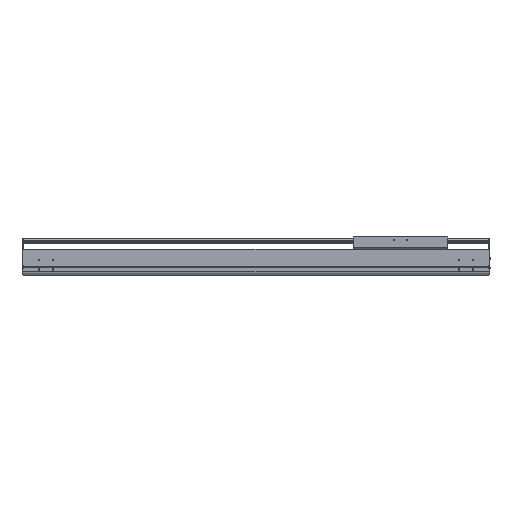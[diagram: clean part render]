
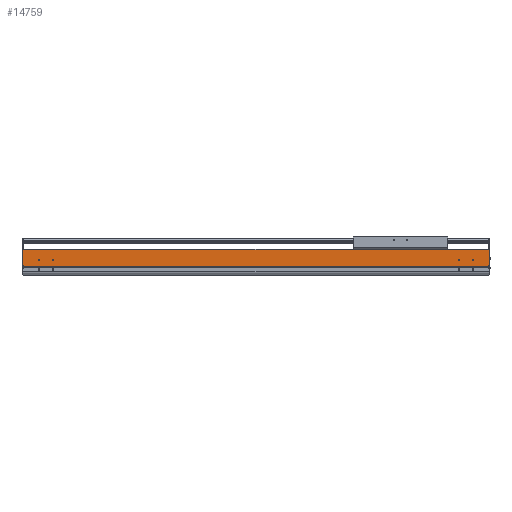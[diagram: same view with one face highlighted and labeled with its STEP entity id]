
A CAD part, top view. The second image highlights one B-rep face of the part: STEP entity #14759.
In plain terms, the highlighted planar face has unit normal (0, 0, 1).
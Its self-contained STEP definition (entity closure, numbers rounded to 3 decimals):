
#1759=DIRECTION('',(0.,-1.,0.));
#1760=VECTOR('',#1759,2.55);
#1761=CARTESIAN_POINT('',(0.,34.65,107.));
#1762=LINE('',#1761,#1760);
#2242=DIRECTION('',(1.,0.,0.));
#2243=VECTOR('',#2242,2.);
#2244=CARTESIAN_POINT('',(-1721.,34.65,107.));
#2245=LINE('',#2244,#2243);
#2246=CARTESIAN_POINT('',(-59.5,54.,107.));
#2247=DIRECTION('',(0.,0.,-1.));
#2248=DIRECTION('',(1.,0.,0.));
#2249=AXIS2_PLACEMENT_3D('',#2246,#2247,#2248);
#2251=CARTESIAN_POINT('',(-59.5,54.,107.));
#2252=DIRECTION('',(0.,0.,-1.));
#2253=DIRECTION('',(-1.,0.,0.));
#2254=AXIS2_PLACEMENT_3D('',#2251,#2252,#2253);
#2256=CARTESIAN_POINT('',(-109.5,54.,107.));
#2257=DIRECTION('',(0.,0.,-1.));
#2258=DIRECTION('',(1.,0.,0.));
#2259=AXIS2_PLACEMENT_3D('',#2256,#2257,#2258);
#2261=CARTESIAN_POINT('',(-109.5,54.,107.));
#2262=DIRECTION('',(0.,0.,-1.));
#2263=DIRECTION('',(-1.,0.,0.));
#2264=AXIS2_PLACEMENT_3D('',#2261,#2262,#2263);
#2266=CARTESIAN_POINT('',(-1659.5,54.,107.));
#2267=DIRECTION('',(0.,0.,-1.));
#2268=DIRECTION('',(1.,0.,0.));
#2269=AXIS2_PLACEMENT_3D('',#2266,#2267,#2268);
#2271=CARTESIAN_POINT('',(-1659.5,54.,107.));
#2272=DIRECTION('',(0.,0.,-1.));
#2273=DIRECTION('',(-1.,0.,0.));
#2274=AXIS2_PLACEMENT_3D('',#2271,#2272,#2273);
#2276=CARTESIAN_POINT('',(-1609.5,54.,107.));
#2277=DIRECTION('',(0.,0.,-1.));
#2278=DIRECTION('',(1.,0.,0.));
#2279=AXIS2_PLACEMENT_3D('',#2276,#2277,#2278);
#2281=CARTESIAN_POINT('',(-1609.5,54.,107.));
#2282=DIRECTION('',(0.,0.,-1.));
#2283=DIRECTION('',(-1.,0.,0.));
#2284=AXIS2_PLACEMENT_3D('',#2281,#2282,#2283);
#2286=DIRECTION('',(0.,-1.,0.));
#2287=VECTOR('',#2286,2.55);
#2288=CARTESIAN_POINT('',(-1719.,34.65,107.));
#2289=LINE('',#2288,#2287);
#2290=DIRECTION('',(0.,-1.,0.));
#2291=VECTOR('',#2290,58.85);
#2292=CARTESIAN_POINT('',(-1721.,93.5,107.));
#2293=LINE('',#2292,#2291);
#2294=DIRECTION('',(0.,1.,0.));
#2295=VECTOR('',#2294,58.85);
#2296=CARTESIAN_POINT('',(2.,34.65,107.));
#2297=LINE('',#2296,#2295);
#2298=DIRECTION('',(1.,0.,0.));
#2299=VECTOR('',#2298,1719.);
#2300=CARTESIAN_POINT('',(-1719.,32.1,107.));
#2301=LINE('',#2300,#2299);
#2406=DIRECTION('',(-1.,0.,0.));
#2407=VECTOR('',#2406,1723.);
#2408=CARTESIAN_POINT('',(2.,93.5,107.));
#2409=LINE('',#2408,#2407);
#8004=DIRECTION('',(1.,0.,0.));
#8005=VECTOR('',#8004,2.);
#8006=CARTESIAN_POINT('',(0.,34.65,107.));
#8007=LINE('',#8006,#8005);
#9233=CARTESIAN_POINT('',(-1721.,34.65,107.));
#9234=VERTEX_POINT('',#9233);
#9235=CARTESIAN_POINT('',(-1721.,93.5,107.));
#9236=VERTEX_POINT('',#9235);
#9465=CARTESIAN_POINT('',(-1719.,32.1,107.));
#9466=VERTEX_POINT('',#9465);
#9789=CARTESIAN_POINT('',(0.,32.1,107.));
#9790=VERTEX_POINT('',#9789);
#9791=CARTESIAN_POINT('',(-57.,54.,107.));
#9792=CARTESIAN_POINT('',(-62.,54.,107.));
#9793=VERTEX_POINT('',#9791);
#9794=VERTEX_POINT('',#9792);
#9795=CARTESIAN_POINT('',(-107.,54.,107.));
#9796=CARTESIAN_POINT('',(-112.,54.,107.));
#9797=VERTEX_POINT('',#9795);
#9798=VERTEX_POINT('',#9796);
#9799=CARTESIAN_POINT('',(-1657.,54.,107.));
#9800=CARTESIAN_POINT('',(-1662.,54.,107.));
#9801=VERTEX_POINT('',#9799);
#9802=VERTEX_POINT('',#9800);
#9803=CARTESIAN_POINT('',(-1607.,54.,107.));
#9804=CARTESIAN_POINT('',(-1612.,54.,107.));
#9805=VERTEX_POINT('',#9803);
#9806=VERTEX_POINT('',#9804);
#10666=CARTESIAN_POINT('',(2.,34.65,107.));
#10667=VERTEX_POINT('',#10666);
#10668=CARTESIAN_POINT('',(2.,93.5,107.));
#10669=VERTEX_POINT('',#10668);
#11120=CARTESIAN_POINT('',(0.,34.65,107.));
#11121=VERTEX_POINT('',#11120);
#11200=CARTESIAN_POINT('',(-1719.,34.65,107.));
#11201=VERTEX_POINT('',#11200);
#14717=CARTESIAN_POINT('',(-859.5,62.8,107.));
#14718=DIRECTION('',(0.,0.,1.));
#14719=DIRECTION('',(0.,-1.,0.));
#14720=AXIS2_PLACEMENT_3D('',#14717,#14718,#14719);
#14721=PLANE('',#14720);
#14722=ORIENTED_EDGE('',*,*,#12203,.F.);
#14723=ORIENTED_EDGE('',*,*,#14712,.F.);
#14724=ORIENTED_EDGE('',*,*,#12832,.F.);
#14726=ORIENTED_EDGE('',*,*,#14725,.F.);
#14727=ORIENTED_EDGE('',*,*,#11940,.F.);
#14729=ORIENTED_EDGE('',*,*,#14728,.F.);
#14730=ORIENTED_EDGE('',*,*,#14320,.T.);
#14732=ORIENTED_EDGE('',*,*,#14731,.F.);
#14733=EDGE_LOOP('',(#14722,#14723,#14724,#14726,#14727,#14729,#14730,#14732));
#14734=FACE_OUTER_BOUND('',#14733,.F.);
#14736=ORIENTED_EDGE('',*,*,#14735,.F.);
#14738=ORIENTED_EDGE('',*,*,#14737,.F.);
#14739=EDGE_LOOP('',(#14736,#14738));
#14740=FACE_BOUND('',#14739,.F.);
#14742=ORIENTED_EDGE('',*,*,#14741,.F.);
#14744=ORIENTED_EDGE('',*,*,#14743,.F.);
#14745=EDGE_LOOP('',(#14742,#14744));
#14746=FACE_BOUND('',#14745,.F.);
#14748=ORIENTED_EDGE('',*,*,#14747,.F.);
#14750=ORIENTED_EDGE('',*,*,#14749,.F.);
#14751=EDGE_LOOP('',(#14748,#14750));
#14752=FACE_BOUND('',#14751,.F.);
#14754=ORIENTED_EDGE('',*,*,#14753,.F.);
#14756=ORIENTED_EDGE('',*,*,#14755,.F.);
#14757=EDGE_LOOP('',(#14754,#14756));
#14758=FACE_BOUND('',#14757,.F.);
#14759=ADVANCED_FACE('',(#14734,#14740,#14746,#14752,#14758),#14721,.T.);
#2250=CIRCLE('',#2249,2.5);
#2255=CIRCLE('',#2254,2.5);
#2260=CIRCLE('',#2259,2.5);
#2265=CIRCLE('',#2264,2.5);
#2270=CIRCLE('',#2269,2.5);
#2275=CIRCLE('',#2274,2.5);
#2280=CIRCLE('',#2279,2.5);
#2285=CIRCLE('',#2284,2.5);
#11940=EDGE_CURVE('',#10667,#10669,#2297,.T.);
#12203=EDGE_CURVE('',#11201,#9466,#2289,.T.);
#12832=EDGE_CURVE('',#9236,#9234,#2293,.T.);
#14320=EDGE_CURVE('',#11121,#9790,#1762,.T.);
#14712=EDGE_CURVE('',#9234,#11201,#2245,.T.);
#14725=EDGE_CURVE('',#10669,#9236,#2409,.T.);
#14728=EDGE_CURVE('',#11121,#10667,#8007,.T.);
#14731=EDGE_CURVE('',#9466,#9790,#2301,.T.);
#14735=EDGE_CURVE('',#9797,#9798,#2260,.T.);
#14737=EDGE_CURVE('',#9798,#9797,#2265,.T.);
#14741=EDGE_CURVE('',#9801,#9802,#2270,.T.);
#14743=EDGE_CURVE('',#9802,#9801,#2275,.T.);
#14747=EDGE_CURVE('',#9805,#9806,#2280,.T.);
#14749=EDGE_CURVE('',#9806,#9805,#2285,.T.);
#14753=EDGE_CURVE('',#9793,#9794,#2250,.T.);
#14755=EDGE_CURVE('',#9794,#9793,#2255,.T.);
